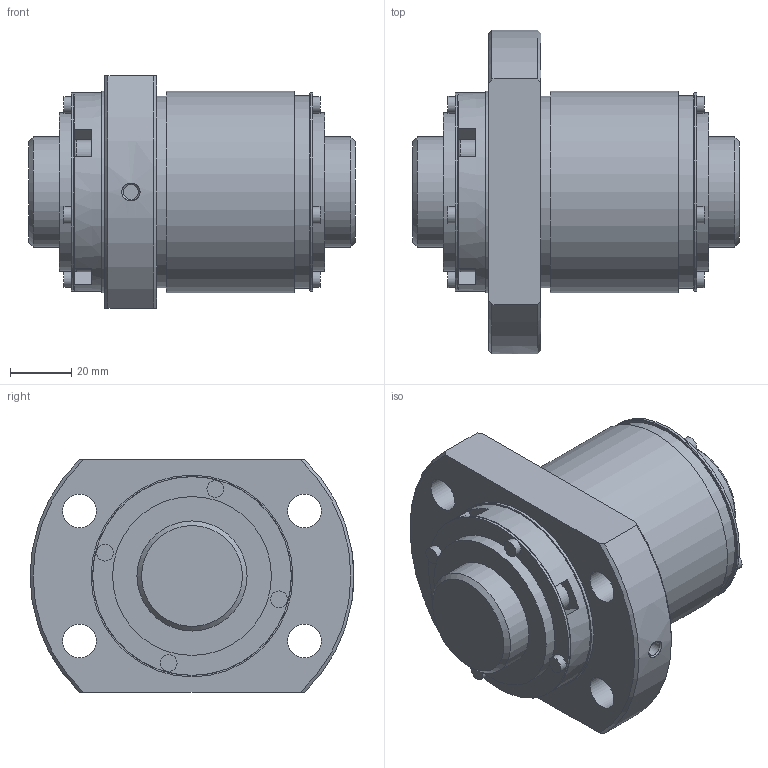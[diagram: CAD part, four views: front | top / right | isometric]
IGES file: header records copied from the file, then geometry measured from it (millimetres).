
Start section: Data from Parasolid IGES Translator 26.0.171, Copyright(c) 2006 Siemens PLM Software. All Rights Reserved.
Global section: file name: BLK3636-3.6ZZG1+107LC3_0_1300.igs; native system: By Siemens PLM Incorporated; preprocessor: XPlus GENERIC/IGES 26.0.171; author: Noname; organization: Noname; date: 20250116.070509; units: millimetre
Bounding box: 107 x 106 x 76 mm (x, y, z)
Surface area: 61425.2 mm2 (no closed solid volume)
Topology: 0 solids, 0 shells, 156 faces, 692 edges, 619 vertices
Faces by surface type: extrusion 95, revolution 61
